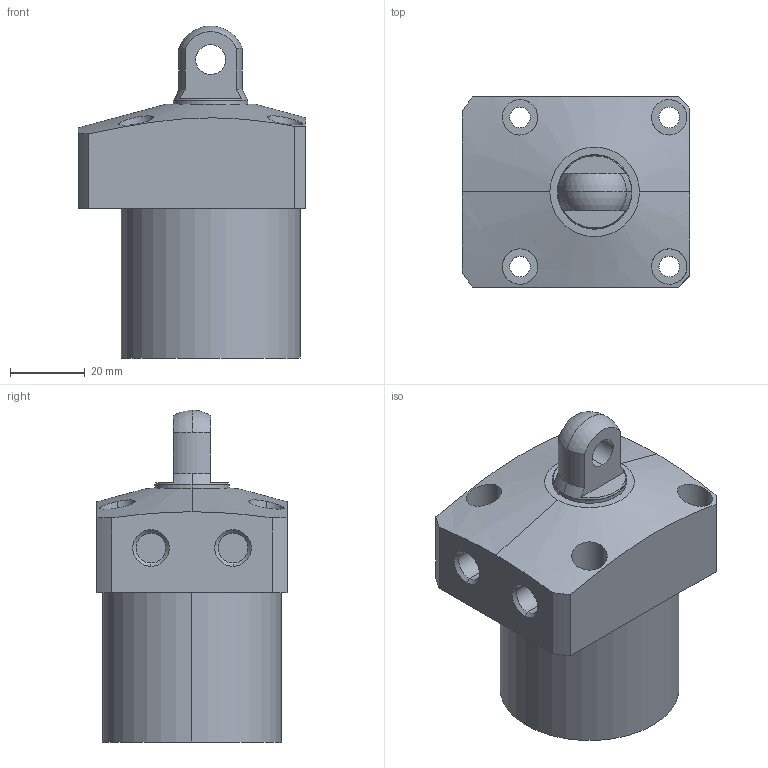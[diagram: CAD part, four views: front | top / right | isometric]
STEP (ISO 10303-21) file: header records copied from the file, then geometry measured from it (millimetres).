
FILE_DESCRIPTION (( 'STEP AP203' ), '1' );
FILE_NAME ('CLL-0480-CP-030.STEP', '2017-05-09T02:42:53', ( '' ), ( '' ), 'SwSTEP 2.0', 'SolidWorks 2015', '' );
FILE_SCHEMA (( 'CONFIG_CONTROL_DESIGN' ));
Length unit declared in the file: millimetre
Products named in the file (1): CLL-0480-CP-030
Bounding box: 61 x 51 x 89 mm (x, y, z)
Volume: 148052.7 mm3; surface area: 20719.8 mm2
Topology: 1 solids, 1 shells, 67 faces, 157 edges, 103 vertices
Faces by surface type: cylinder 35, plane 22, cone 8, sphere 2
Entity records: 2360 total; most frequent: CARTESIAN_POINT 682, DIRECTION 351, ORIENTED_EDGE 314, EDGE_CURVE 157, AXIS2_PLACEMENT_3D 146, VERTEX_POINT 103, EDGE_LOOP 88, CIRCLE 78
